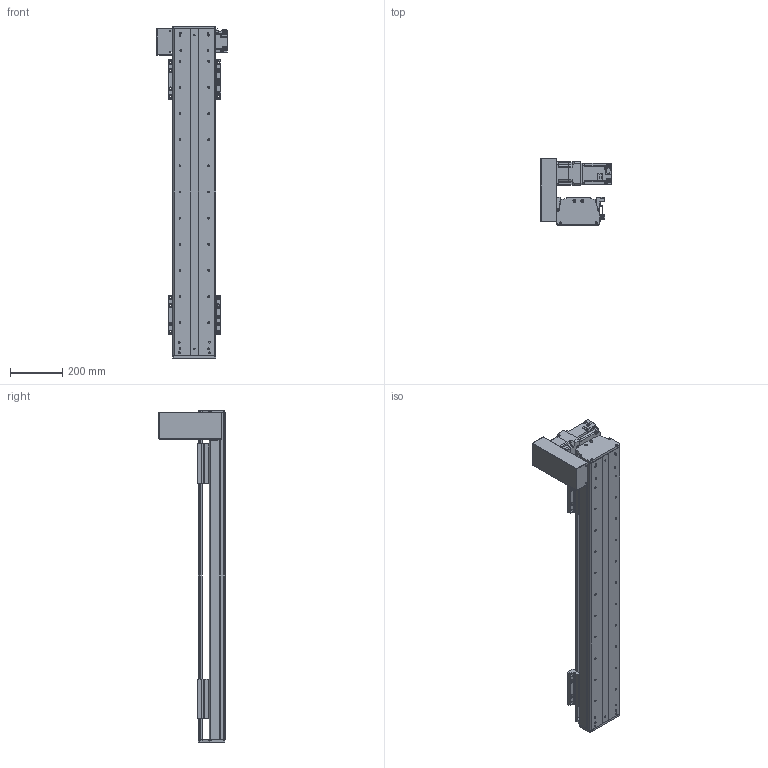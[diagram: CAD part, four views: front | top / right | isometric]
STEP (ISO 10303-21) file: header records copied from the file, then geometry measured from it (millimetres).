
FILE_DESCRIPTION(/* description */ (''),/* implementation_level */ '2;1');
FILE_NAME(/* name */ 'C:\Users\PC\Desktop\3D도면\STEP\DSB165-UL7G-W0900-R.stp',/* time_stamp */ '2018-06-25T15:05:32+09:00',/* author */ ('PC'),/* organization */ (''),/* preprocessor_version */ 'ST-DEVELOPER v16.5',/* originating_system */ 'Autodesk Inventor 2017',/* authorisation */ '');
FILE_SCHEMA (('AUTOMOTIVE_DESIGN { 1 0 10303 214 3 1 1 }'));
Length unit declared in the file: millimetre
Products named in the file (12): DSB165-L; DSR165-BASE_S; hg-kr73_; ab0901-p0401300102; 11-DBS165 BELT COVER; DBS165-COVER; DBS165-COVER_1; DBS165-UP COVER; DSR126-SENSOR DOG; pm-y65_step; SENSOR BRACKET(EE-SX674A); DBS165-TABLE(MSA20S)
Assembly tree (16 placements, depth 2):
  DSB165-L
    DSR165-BASE_S
    hg-kr73_
    ab0901-p0401300102
    11-DBS165 BELT COVER
    DBS165-COVER
    DBS165-COVER_1
    DBS165-UP COVER
    DSR126-SENSOR DOG
    pm-y65_step  x3
    SENSOR BRACKET(EE-SX674A)  x3
    DBS165-TABLE(MSA20S)  x2
Bounding box: 270 x 254 x 1270 mm (x, y, z)
Volume: 8409918.7 mm3; surface area: 1945836.5 mm2
Topology: 17 solids, 22 shells, 1675 faces, 4495 edges, 2964 vertices
Faces by surface type: plane 926, cylinder 623, cone 114, sphere 8, torus 4
Full cylindrical faces by diameter (mm): 2.459 x20, 3.5 x6, 4.134 x42, 4.5 x18, 5 x27, 5.5 x36, 5.9 x4, 6 x8, 6.6 x14, 6.647 x42, 6.8 x1, 7 x4, 7.6 x4, 8 x1, 8.4 x1, 8.5 x24, 8.7 x1, 9.5 x32, 11 x6, 14 x16, 19 x1, 22 x1, 24 x1, 25 x1, 28 x1, 67 x1, 70 x2, 80 x1
Entity records: 35629 total; most frequent: DIRECTION 6300, CARTESIAN_POINT 6103, ORIENTED_EDGE 5550, EDGE_CURVE 2780, AXIS2_PLACEMENT_3D 2320, VERTEX_POINT 1985, EDGE_LOOP 1747, LINE 1660
